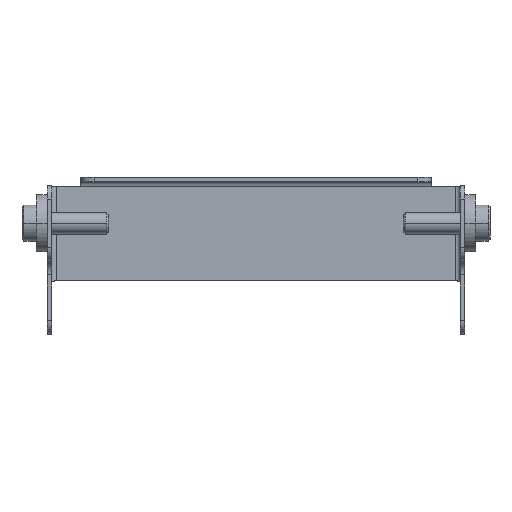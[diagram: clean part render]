
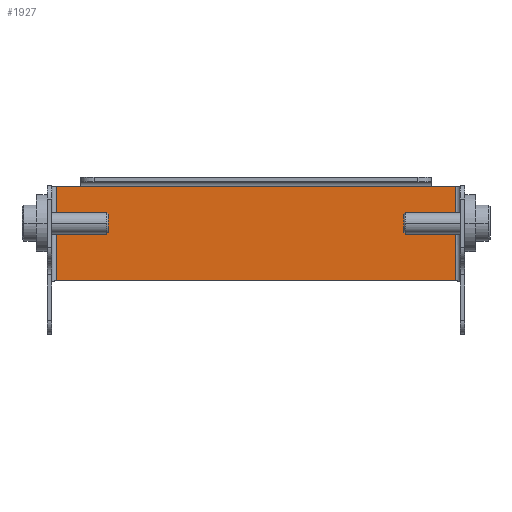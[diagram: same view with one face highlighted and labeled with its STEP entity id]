
A CAD part, top view. The second image highlights one B-rep face of the part: STEP entity #1927.
In plain terms, the highlighted planar face has unit normal (0, 0, 1).
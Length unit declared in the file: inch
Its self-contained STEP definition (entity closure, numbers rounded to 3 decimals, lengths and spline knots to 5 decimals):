
#516=CARTESIAN_POINT('',(-2.1845,-0.22248,0.));
#532=DIRECTION('',(0.,1.,0.));
#533=VECTOR('',#532,1.03498);
#534=CARTESIAN_POINT('',(-2.1845,-0.22248,0.));
#535=LINE('',#534,#533);
#536=DIRECTION('',(1.,0.,0.));
#537=VECTOR('',#536,4.369);
#538=CARTESIAN_POINT('',(-2.1845,-0.22248,0.));
#539=LINE('',#538,#537);
#544=DIRECTION('',(1.,0.,0.));
#545=VECTOR('',#544,0.2645);
#546=CARTESIAN_POINT('',(-2.1845,0.8125,0.));
#547=LINE('',#546,#545);
#924=DIRECTION('',(0.,-1.,0.));
#925=VECTOR('',#924,1.03498);
#926=CARTESIAN_POINT('',(2.1845,0.8125,0.));
#927=LINE('',#926,#925);
#946=DIRECTION('',(1.,0.,0.));
#947=VECTOR('',#946,0.2645);
#948=CARTESIAN_POINT('',(1.92,0.8125,0.));
#949=LINE('',#948,#947);
#1032=DIRECTION('',(1.,0.,0.));
#1033=VECTOR('',#1032,3.84);
#1034=CARTESIAN_POINT('',(-1.92,0.8125,0.));
#1035=LINE('',#1034,#1033);
#1328=CARTESIAN_POINT('',(2.1845,0.8125,0.));
#1329=CARTESIAN_POINT('',(2.1845,-0.22248,0.));
#1330=VERTEX_POINT('',#1328);
#1331=VERTEX_POINT('',#1329);
#1545=CARTESIAN_POINT('',(1.92,0.8125,0.));
#1546=VERTEX_POINT('',#1545);
#1553=CARTESIAN_POINT('',(-1.92,0.8125,0.));
#1554=VERTEX_POINT('',#1553);
#1593=VERTEX_POINT('',#516);
#1609=CARTESIAN_POINT('',(-2.1845,0.8125,0.));
#1610=VERTEX_POINT('',#1609);
#1910=CARTESIAN_POINT('',(0.,0.,0.));
#1911=DIRECTION('',(0.,0.,1.));
#1912=DIRECTION('',(1.,0.,0.));
#1913=AXIS2_PLACEMENT_3D('',#1910,#1911,#1912);
#1914=PLANE('',#1913);
#1915=ORIENTED_EDGE('',*,*,#1876,.F.);
#1916=ORIENTED_EDGE('',*,*,#1904,.T.);
#1918=ORIENTED_EDGE('',*,*,#1917,.T.);
#1920=ORIENTED_EDGE('',*,*,#1919,.T.);
#1922=ORIENTED_EDGE('',*,*,#1921,.T.);
#1924=ORIENTED_EDGE('',*,*,#1923,.T.);
#1925=EDGE_LOOP('',(#1915,#1916,#1918,#1920,#1922,#1924));
#1926=FACE_OUTER_BOUND('',#1925,.F.);
#1876=EDGE_CURVE('',#1593,#1331,#539,.T.);
#1904=EDGE_CURVE('',#1593,#1610,#535,.T.);
#1917=EDGE_CURVE('',#1610,#1554,#547,.T.);
#1919=EDGE_CURVE('',#1554,#1546,#1035,.T.);
#1921=EDGE_CURVE('',#1546,#1330,#949,.T.);
#1923=EDGE_CURVE('',#1330,#1331,#927,.T.);
#1927=ADVANCED_FACE('',(#1926),#1914,.T.);
